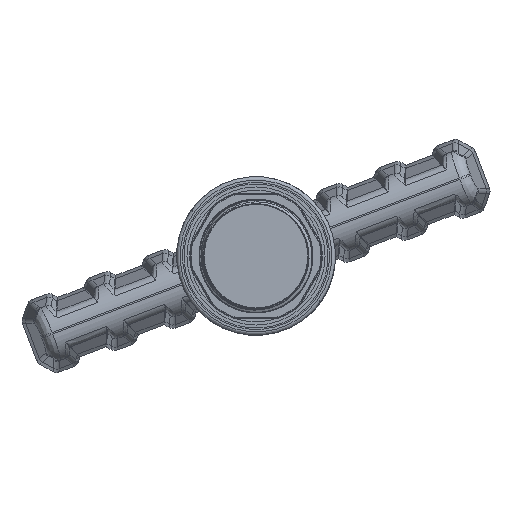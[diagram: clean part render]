
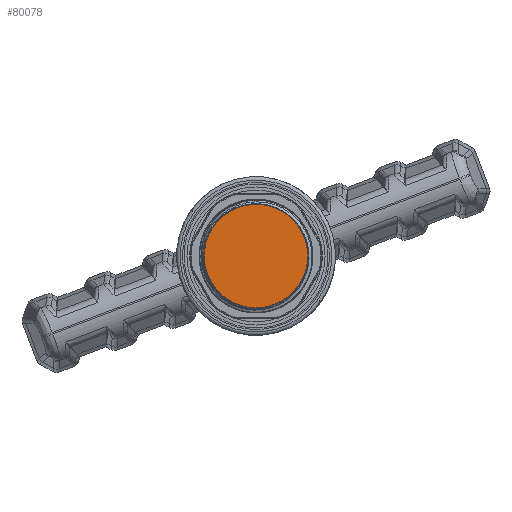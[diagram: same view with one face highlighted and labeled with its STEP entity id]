
A CAD part, front view. The second image highlights one B-rep face of the part: STEP entity #80078.
In plain terms, the highlighted planar face has unit normal (0, -1, 0).
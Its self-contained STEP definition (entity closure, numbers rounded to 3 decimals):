
#874 = CARTESIAN_POINT ( 'NONE',  ( 0.444, 0., 7.476 ) ) ;
#1931 = CARTESIAN_POINT ( 'NONE',  ( 0., 0., 0. ) ) ;
#2529 = ORIENTED_EDGE ( 'NONE', *, *, #77065, .F. ) ;
#2598 = VERTEX_POINT ( 'NONE', #30913 ) ;
#7311 = CARTESIAN_POINT ( 'NONE',  ( -3.452, 0., 6.68 ) ) ;
#9321 = DIRECTION ( 'NONE',  ( 0., -1., 0. ) ) ;
#13816 = CARTESIAN_POINT ( 'NONE',  ( -3.045, 0., 6.867 ) ) ;
#15194 = CARTESIAN_POINT ( 'NONE',  ( -2.201, 0., 7.17 ) ) ;
#21406 = CARTESIAN_POINT ( 'NONE',  ( 0., 0., 0. ) ) ;
#22314 = PLANE ( 'NONE',  #64952 ) ;
#27209 = EDGE_LOOP ( 'NONE', ( #2529, #50319 ) ) ;
#28986 = CARTESIAN_POINT ( 'NONE',  ( 4.953, 0., 5.708 ) ) ;
#29447 = CARTESIAN_POINT ( 'NONE',  ( -0.884, 0., 7.438 ) ) ;
#30913 = CARTESIAN_POINT ( 'NONE',  ( 4.953, 0., 5.708 ) ) ;
#32672 = EDGE_CURVE ( 'NONE', #47264, #2598, #76659, .T. ) ;
#41867 = CARTESIAN_POINT ( 'NONE',  ( -0.441, 0., 7.476 ) ) ;
#41989 = B_SPLINE_CURVE_WITH_KNOTS ( 'NONE', 3,
 ( #84250, #78285, #57523, #7311, #13816, #15194, #56612, #29447, #41867, #874, #42785, #85610, #83819, #49260, #50592, #78750, #63527, #28986 ),
 .UNSPECIFIED., .F., .F.,
 ( 4, 2, 2, 2, 2, 2, 2, 2, 4 ),
 ( 0., 0.002, 0.003, 0.004, 0.006, 0.007, 0.008, 0.01, 0.011 ),
 .UNSPECIFIED. ) ;
#42785 = CARTESIAN_POINT ( 'NONE',  ( 0.887, 0., 7.438 ) ) ;
#45736 = AXIS2_PLACEMENT_3D ( 'NONE', #1931, #9321, #56782 ) ;
#47264 = VERTEX_POINT ( 'NONE', #52507 ) ;
#49260 = CARTESIAN_POINT ( 'NONE',  ( 3.048, 0., 6.866 ) ) ;
#49519 = DIRECTION ( 'NONE',  ( 0., 0., 1. ) ) ;
#50319 = ORIENTED_EDGE ( 'NONE', *, *, #32672, .T. ) ;
#50592 = CARTESIAN_POINT ( 'NONE',  ( 3.455, 0., 6.678 ) ) ;
#52507 = CARTESIAN_POINT ( 'NONE',  ( -4.953, 0., 5.708 ) ) ;
#56612 = CARTESIAN_POINT ( 'NONE',  ( -1.768, 0., 7.284 ) ) ;
#56782 = DIRECTION ( 'NONE',  ( 0., 0., 1. ) ) ;
#57523 = CARTESIAN_POINT ( 'NONE',  ( -4.233, 0., 6.239 ) ) ;
#57799 = DIRECTION ( 'NONE',  ( 0., 1., 0. ) ) ;
#63527 = CARTESIAN_POINT ( 'NONE',  ( 4.604, 0., 5.987 ) ) ;
#64952 = AXIS2_PLACEMENT_3D ( 'NONE', #21406, #57799, #49519 ) ;
#71667 = FACE_OUTER_BOUND ( 'NONE', #27209, .T. ) ;
#76659 = CIRCLE ( 'NONE', #45736, 7.557 ) ;
#77065 = EDGE_CURVE ( 'NONE', #47264, #2598, #41989, .T. ) ;
#78285 = CARTESIAN_POINT ( 'NONE',  ( -4.603, 0., 5.988 ) ) ;
#78750 = CARTESIAN_POINT ( 'NONE',  ( 4.235, 0., 6.238 ) ) ;
#80078 = ADVANCED_FACE ( 'NONE', ( #71667 ), #22314, .F. ) ;
#83819 = CARTESIAN_POINT ( 'NONE',  ( 2.204, 0., 7.169 ) ) ;
#84250 = CARTESIAN_POINT ( 'NONE',  ( -4.953, 0., 5.708 ) ) ;
#85610 = CARTESIAN_POINT ( 'NONE',  ( 1.771, 0., 7.284 ) ) ;
